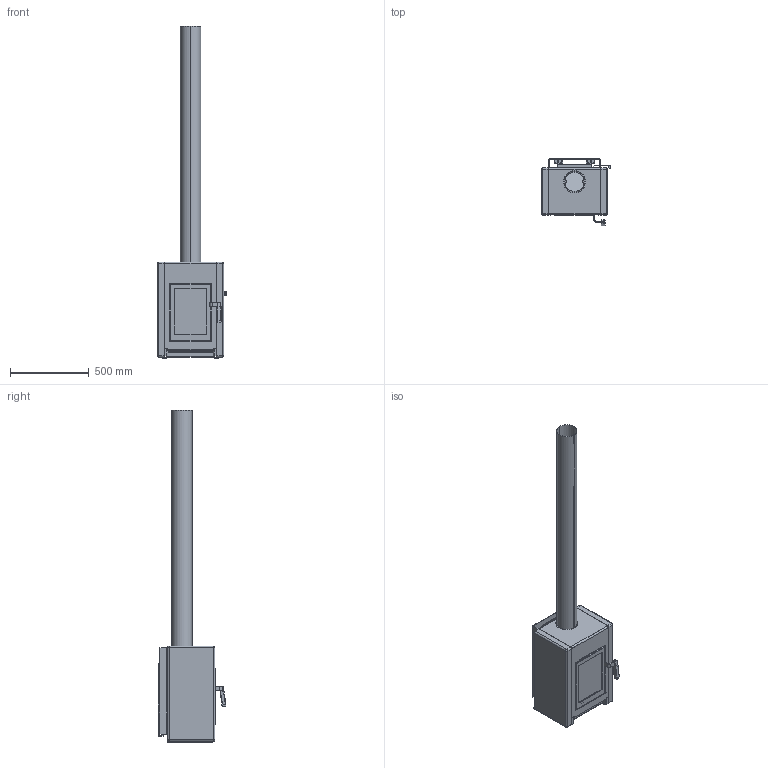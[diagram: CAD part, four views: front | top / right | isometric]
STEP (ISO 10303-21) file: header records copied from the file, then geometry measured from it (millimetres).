
FILE_DESCRIPTION (( 'STEP AP214' ), '1' );
FILE_NAME ('Harrie Leenders Lobbe compact.STEP', '2018-03-30T11:10:17', ( '' ), ( '' ), 'SwSTEP 2.0', 'SolidWorks 2018', '' );
FILE_SCHEMA (( 'AUTOMOTIVE_DESIGN' ));
Length unit declared in the file: millimetre
Products named in the file (1): Harrie Leenders Lobbe compact
Bounding box: 441 x 430.82 x 2110 mm (x, y, z)
Volume: 32716001.4 mm3; surface area: 5611942.4 mm2
Topology: 26 solids, 26 shells, 1305 faces, 3385 edges, 2107 vertices
Faces by surface type: plane 696, cylinder 366, bspline 107, sphere 79, cone 53, torus 4
Entity records: 47574 total; most frequent: CARTESIAN_POINT 16649, ORIENTED_EDGE 6588, DIRECTION 6086, EDGE_CURVE 3294, VERTEX_POINT 2070, VECTOR 2062, LINE 2062, AXIS2_PLACEMENT_3D 2012
